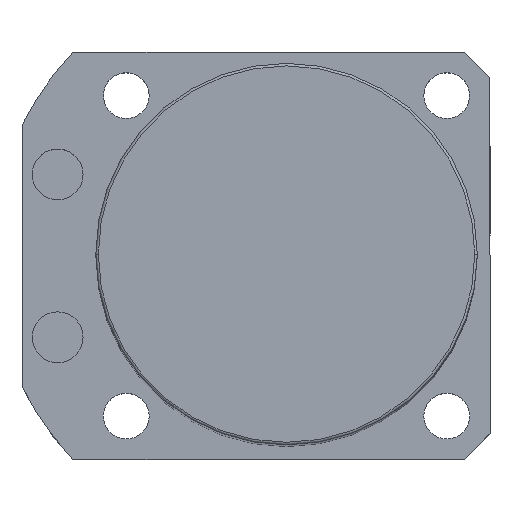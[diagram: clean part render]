
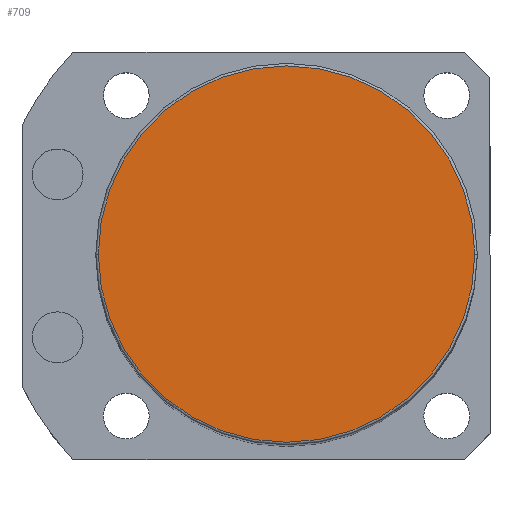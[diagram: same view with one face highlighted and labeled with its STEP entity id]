
A CAD part, top view. The second image highlights one B-rep face of the part: STEP entity #709.
In plain terms, the highlighted planar face has unit normal (0, 0, 1).
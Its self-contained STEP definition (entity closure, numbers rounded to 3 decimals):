
#48 = AXIS2_PLACEMENT_3D ( 'NONE', #1845, #1082, #1270 ) ;
#97 = ORIENTED_EDGE ( 'NONE', *, *, #1534, .T. ) ;
#178 = DIRECTION ( 'NONE',  ( 0., 0., 1. ) ) ;
#418 = CARTESIAN_POINT ( 'NONE',  ( 37., 0., 215.5 ) ) ;
#419 = VERTEX_POINT ( 'NONE', #1744 ) ;
#709 = ADVANCED_FACE ( 'NONE', ( #949 ), #1998, .T. ) ;
#746 = CARTESIAN_POINT ( 'NONE',  ( 0., 0., 215.5 ) ) ;
#789 = AXIS2_PLACEMENT_3D ( 'NONE', #861, #2188, #1056 ) ;
#829 = VERTEX_POINT ( 'NONE', #418 ) ;
#861 = CARTESIAN_POINT ( 'NONE',  ( 0., 0., 215.5 ) ) ;
#926 = DIRECTION ( 'NONE',  ( 1., 0., 0. ) ) ;
#949 = FACE_OUTER_BOUND ( 'NONE', #1880, .T. ) ;
#1056 = DIRECTION ( 'NONE',  ( 1., 0., 0. ) ) ;
#1082 = DIRECTION ( 'NONE',  ( 0., 0., 1. ) ) ;
#1270 = DIRECTION ( 'NONE',  ( 1., 0., 0. ) ) ;
#1308 = CIRCLE ( 'NONE', #48, 37. ) ;
#1442 = EDGE_CURVE ( 'NONE', #829, #419, #1308, .T. ) ;
#1534 = EDGE_CURVE ( 'NONE', #419, #829, #1577, .T. ) ;
#1577 = CIRCLE ( 'NONE', #2302, 37. ) ;
#1627 = ORIENTED_EDGE ( 'NONE', *, *, #1442, .T. ) ;
#1744 = CARTESIAN_POINT ( 'NONE',  ( -37., 0., 215.5 ) ) ;
#1845 = CARTESIAN_POINT ( 'NONE',  ( 0., 0., 215.5 ) ) ;
#1880 = EDGE_LOOP ( 'NONE', ( #1627, #97 ) ) ;
#1998 = PLANE ( 'NONE',  #789 ) ;
#2188 = DIRECTION ( 'NONE',  ( 0., 0., 1. ) ) ;
#2302 = AXIS2_PLACEMENT_3D ( 'NONE', #746, #178, #926 ) ;
